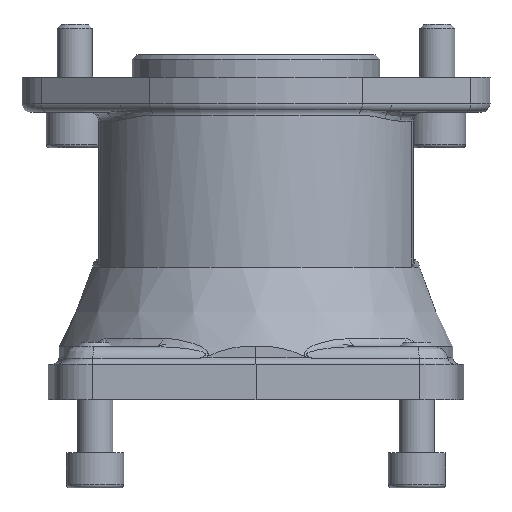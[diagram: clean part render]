
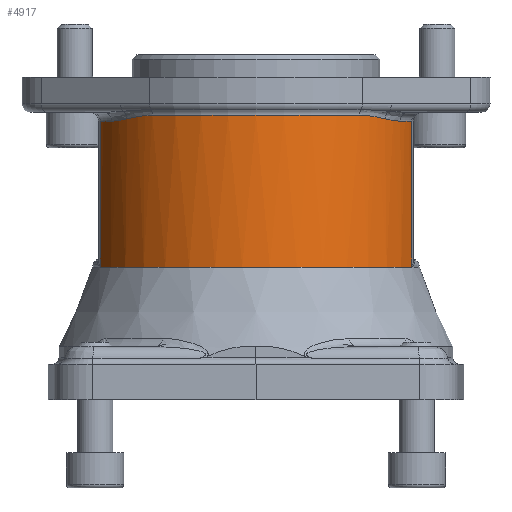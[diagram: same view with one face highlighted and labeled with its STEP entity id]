
A CAD part, left-side view. The second image highlights one B-rep face of the part: STEP entity #4917.
In plain terms, the highlighted cylindrical face has radius 37 mm (diameter 74 mm), a partial arc.
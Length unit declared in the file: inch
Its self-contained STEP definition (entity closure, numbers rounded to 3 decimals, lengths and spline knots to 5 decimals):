
#128=B_SPLINE_CURVE_WITH_KNOTS('',3,(#9467,#9468,#9469,#9470),
 .UNSPECIFIED.,.F.,.F.,(4,4),(0.,0.86324),.UNSPECIFIED.);
#130=B_SPLINE_CURVE_WITH_KNOTS('',3,(#9504,#9505,#9506,#9507),
 .UNSPECIFIED.,.F.,.F.,(4,4),(0.,0.86324),.UNSPECIFIED.);
#132=B_SPLINE_CURVE_WITH_KNOTS('',3,(#9532,#9533,#9534,#9535),
 .UNSPECIFIED.,.F.,.F.,(4,4),(0.,0.67981),
 .UNSPECIFIED.);
#134=B_SPLINE_CURVE_WITH_KNOTS('',3,(#9576,#9577,#9578,#9579),
 .UNSPECIFIED.,.F.,.F.,(4,4),(0.,0.67981),
 .UNSPECIFIED.);
#707=FACE_OUTER_BOUND('',#1022,.T.);
#1022=EDGE_LOOP('',(#4177,#4178,#4179,#4180,#4181,#4182,#4183,#4184,#4185,
#4186));
#1277=LINE('',#9653,#1520);
#1278=LINE('',#9654,#1521);
#1520=VECTOR('',#6689,0.3937);
#1521=VECTOR('',#6690,0.3937);
#1694=CIRCLE('',#5285,1.45669);
#1762=CIRCLE('',#5412,1.45669);
#1774=CIRCLE('',#5429,1.45669);
#1779=CIRCLE('',#5435,1.45669);
#2085=VERTEX_POINT('',#7954);
#2086=VERTEX_POINT('',#7955);
#2201=VERTEX_POINT('',#9419);
#2202=VERTEX_POINT('',#9421);
#2205=VERTEX_POINT('',#9457);
#2208=VERTEX_POINT('',#9465);
#2209=VERTEX_POINT('',#9472);
#2211=VERTEX_POINT('',#9497);
#2213=VERTEX_POINT('',#9537);
#2216=VERTEX_POINT('',#9542);
#2651=EDGE_CURVE('',#2085,#2086,#1694,.T.);
#2843=EDGE_CURVE('',#2202,#2201,#1762,.T.);
#2854=EDGE_CURVE('',#2208,#2205,#128,.T.);
#2857=EDGE_CURVE('',#2205,#2209,#1774,.T.);
#2860=EDGE_CURVE('',#2209,#2211,#130,.T.);
#2862=EDGE_CURVE('',#2201,#2208,#132,.T.);
#2866=EDGE_CURVE('',#2216,#2213,#1779,.T.);
#2872=EDGE_CURVE('',#2211,#2216,#134,.T.);
#2887=EDGE_CURVE('',#2213,#2086,#1277,.T.);
#2888=EDGE_CURVE('',#2085,#2202,#1278,.T.);
#4177=ORIENTED_EDGE('',*,*,#2651,.T.);
#4178=ORIENTED_EDGE('',*,*,#2887,.F.);
#4179=ORIENTED_EDGE('',*,*,#2866,.F.);
#4180=ORIENTED_EDGE('',*,*,#2872,.F.);
#4181=ORIENTED_EDGE('',*,*,#2860,.F.);
#4182=ORIENTED_EDGE('',*,*,#2857,.F.);
#4183=ORIENTED_EDGE('',*,*,#2854,.F.);
#4184=ORIENTED_EDGE('',*,*,#2862,.F.);
#4185=ORIENTED_EDGE('',*,*,#2843,.F.);
#4186=ORIENTED_EDGE('',*,*,#2888,.F.);
#4362=CYLINDRICAL_SURFACE('',#5454,1.45669);
#4917=ADVANCED_FACE('',(#707),#4362,.T.);
#5285=AXIS2_PLACEMENT_3D('',#7956,#6295,#6296);
#5412=AXIS2_PLACEMENT_3D('',#9423,#6598,#6599);
#5429=AXIS2_PLACEMENT_3D('',#9476,#6632,#6633);
#5435=AXIS2_PLACEMENT_3D('',#9544,#6644,#6645);
#5454=AXIS2_PLACEMENT_3D('',#9652,#6687,#6688);
#6295=DIRECTION('center_axis',(0.,0.,1.));
#6296=DIRECTION('ref_axis',(-1.,0.,0.));
#6598=DIRECTION('center_axis',(0.,0.,
1.));
#6599=DIRECTION('ref_axis',(-0.461,0.887,0.));
#6632=DIRECTION('center_axis',(0.,0.,1.));
#6633=DIRECTION('ref_axis',(-1.,0.,0.));
#6644=DIRECTION('center_axis',(0.,0.,
1.));
#6645=DIRECTION('ref_axis',(-0.461,-0.887,0.));
#6687=DIRECTION('center_axis',(0.,0.,1.));
#6688=DIRECTION('ref_axis',(-1.,0.,0.));
#6689=DIRECTION('',(0.,0.,-1.));
#6690=DIRECTION('',(0.,0.,1.));
#7954=CARTESIAN_POINT('',(-0.44179,1.38809,1.1811));
#7955=CARTESIAN_POINT('',(-0.44179,-1.38809,1.1811));
#7956=CARTESIAN_POINT('Origin',(0.,0.,1.1811));
#9419=CARTESIAN_POINT('',(-0.6844,1.2859,2.48031));
#9421=CARTESIAN_POINT('',(-0.44179,1.38809,2.48031));
#9423=CARTESIAN_POINT('Origin',(0.,0.,2.48031));
#9457=CARTESIAN_POINT('',(-1.12633,0.92376,2.53363));
#9465=CARTESIAN_POINT('',(-0.8966,1.14807,2.50263));
#9467=CARTESIAN_POINT('Ctrl Pts',(-0.8966,1.14807,2.50263));
#9468=CARTESIAN_POINT('Ctrl Pts',(-0.98059,1.08248,2.51734));
#9469=CARTESIAN_POINT('Ctrl Pts',(-1.05818,1.00686,2.53363));
#9470=CARTESIAN_POINT('Ctrl Pts',(-1.12633,0.92376,2.53363));
#9472=CARTESIAN_POINT('',(-1.12633,-0.92376,2.53363));
#9476=CARTESIAN_POINT('Origin',(0.,0.,
2.53363));
#9497=CARTESIAN_POINT('',(-0.8966,-1.14807,2.50263));
#9504=CARTESIAN_POINT('Ctrl Pts',(-1.12633,-0.92376,
2.53363));
#9505=CARTESIAN_POINT('Ctrl Pts',(-1.05818,-1.00686,2.53363));
#9506=CARTESIAN_POINT('Ctrl Pts',(-0.98059,-1.08248,
2.51734));
#9507=CARTESIAN_POINT('Ctrl Pts',(-0.8966,-1.14807,2.50263));
#9532=CARTESIAN_POINT('Ctrl Pts',(-0.6844,1.2859,2.48031));
#9533=CARTESIAN_POINT('Ctrl Pts',(-0.75912,1.24614,2.48031));
#9534=CARTESIAN_POINT('Ctrl Pts',(-0.83046,1.19972,2.49104));
#9535=CARTESIAN_POINT('Ctrl Pts',(-0.8966,1.14807,2.50263));
#9537=CARTESIAN_POINT('',(-0.44179,-1.38809,2.48031));
#9542=CARTESIAN_POINT('',(-0.6844,-1.2859,2.48031));
#9544=CARTESIAN_POINT('Origin',(0.,0.,2.48031));
#9576=CARTESIAN_POINT('Ctrl Pts',(-0.8966,-1.14807,
2.50263));
#9577=CARTESIAN_POINT('Ctrl Pts',(-0.83046,-1.19972,
2.49104));
#9578=CARTESIAN_POINT('Ctrl Pts',(-0.75912,-1.24614,2.48031));
#9579=CARTESIAN_POINT('Ctrl Pts',(-0.6844,-1.2859,
2.48031));
#9652=CARTESIAN_POINT('Origin',(0.,0.,0.));
#9653=CARTESIAN_POINT('',(-0.44179,-1.38809,0.));
#9654=CARTESIAN_POINT('',(-0.44179,1.38809,0.));
